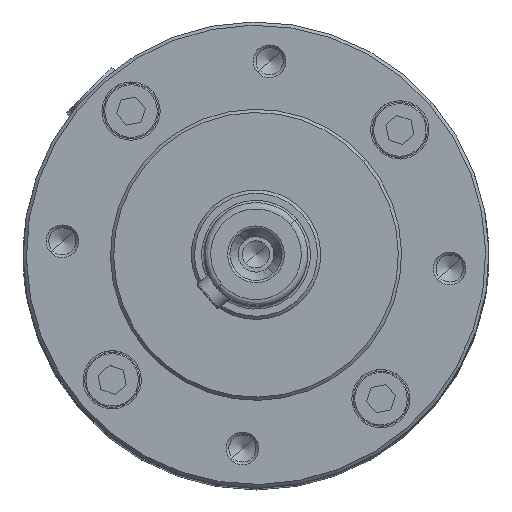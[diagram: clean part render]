
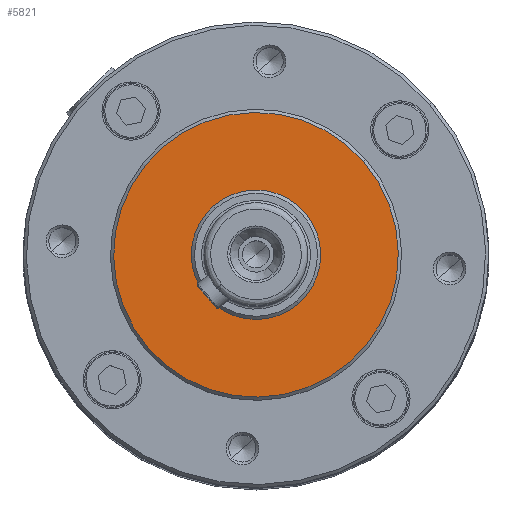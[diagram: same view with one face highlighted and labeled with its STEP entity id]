
A CAD part, top view. The second image highlights one B-rep face of the part: STEP entity #5821.
In plain terms, the highlighted planar face has unit normal (0, 0, 1) as drawn and (0, 1, 0) by its records, which use the part's own axes.
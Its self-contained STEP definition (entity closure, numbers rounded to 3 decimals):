
#132 = CIRCLE ( 'NONE', #738, 22. ) ;
#235 = DIRECTION ( 'NONE',  ( 0., 0., -1. ) ) ;
#329 = VERTEX_POINT ( 'NONE', #783 ) ;
#546 = AXIS2_PLACEMENT_3D ( 'NONE', #4491, #6819, #1574 ) ;
#556 = DIRECTION ( 'NONE',  ( 0., 0., -1. ) ) ;
#676 = CIRCLE ( 'NONE', #4955, 10. ) ;
#738 = AXIS2_PLACEMENT_3D ( 'NONE', #3183, #5489, #235 ) ;
#783 = CARTESIAN_POINT ( 'NONE',  ( 0., 36.5, 22. ) ) ;
#883 = CARTESIAN_POINT ( 'NONE',  ( 0., 36.5, 0. ) ) ;
#926 = DIRECTION ( 'NONE',  ( 0., 1., 0. ) ) ;
#1301 = VERTEX_POINT ( 'NONE', #2709 ) ;
#1574 = DIRECTION ( 'NONE',  ( 0., 0., -1. ) ) ;
#1589 = EDGE_CURVE ( 'NONE', #329, #1301, #132, .T. ) ;
#1802 = VERTEX_POINT ( 'NONE', #6966 ) ;
#2085 = FACE_BOUND ( 'NONE', #6564, .T. ) ;
#2596 = EDGE_LOOP ( 'NONE', ( #3792, #4290 ) ) ;
#2709 = CARTESIAN_POINT ( 'NONE',  ( 0., 36.5, -22. ) ) ;
#2768 = PLANE ( 'NONE',  #5720 ) ;
#2795 = ORIENTED_EDGE ( 'NONE', *, *, #3746, .T. ) ;
#3183 = CARTESIAN_POINT ( 'NONE',  ( 0., 36.5, 0. ) ) ;
#3470 = VERTEX_POINT ( 'NONE', #3504 ) ;
#3504 = CARTESIAN_POINT ( 'NONE',  ( 0., 36.5, 10. ) ) ;
#3594 = ORIENTED_EDGE ( 'NONE', *, *, #6571, .T. ) ;
#3746 = EDGE_CURVE ( 'NONE', #3470, #1802, #676, .T. ) ;
#3776 = EDGE_CURVE ( 'NONE', #1301, #329, #5686, .T. ) ;
#3792 = ORIENTED_EDGE ( 'NONE', *, *, #3776, .F. ) ;
#4014 = DIRECTION ( 'NONE',  ( 0., -1., 0. ) ) ;
#4290 = ORIENTED_EDGE ( 'NONE', *, *, #1589, .F. ) ;
#4347 = DIRECTION ( 'NONE',  ( 0., -1., 0. ) ) ;
#4449 = FACE_OUTER_BOUND ( 'NONE', #2596, .T. ) ;
#4491 = CARTESIAN_POINT ( 'NONE',  ( 0., 36.5, 0. ) ) ;
#4955 = AXIS2_PLACEMENT_3D ( 'NONE', #883, #4347, #6701 ) ;
#5071 = DIRECTION ( 'NONE',  ( 0., 0., 1. ) ) ;
#5263 = AXIS2_PLACEMENT_3D ( 'NONE', #6416, #4014, #556 ) ;
#5489 = DIRECTION ( 'NONE',  ( 0., -1., 0. ) ) ;
#5636 = CARTESIAN_POINT ( 'NONE',  ( 0., 36.5, 0. ) ) ;
#5686 = CIRCLE ( 'NONE', #546, 22. ) ;
#5720 = AXIS2_PLACEMENT_3D ( 'NONE', #5636, #926, #5071 ) ;
#5821 = ADVANCED_FACE ( 'NONE', ( #2085, #4449 ), #2768, .T. ) ;
#5982 = CIRCLE ( 'NONE', #5263, 10. ) ;
#6416 = CARTESIAN_POINT ( 'NONE',  ( 0., 36.5, 0. ) ) ;
#6564 = EDGE_LOOP ( 'NONE', ( #3594, #2795 ) ) ;
#6571 = EDGE_CURVE ( 'NONE', #1802, #3470, #5982, .T. ) ;
#6701 = DIRECTION ( 'NONE',  ( 0., 0., -1. ) ) ;
#6819 = DIRECTION ( 'NONE',  ( 0., -1., 0. ) ) ;
#6966 = CARTESIAN_POINT ( 'NONE',  ( 0., 36.5, -10. ) ) ;
